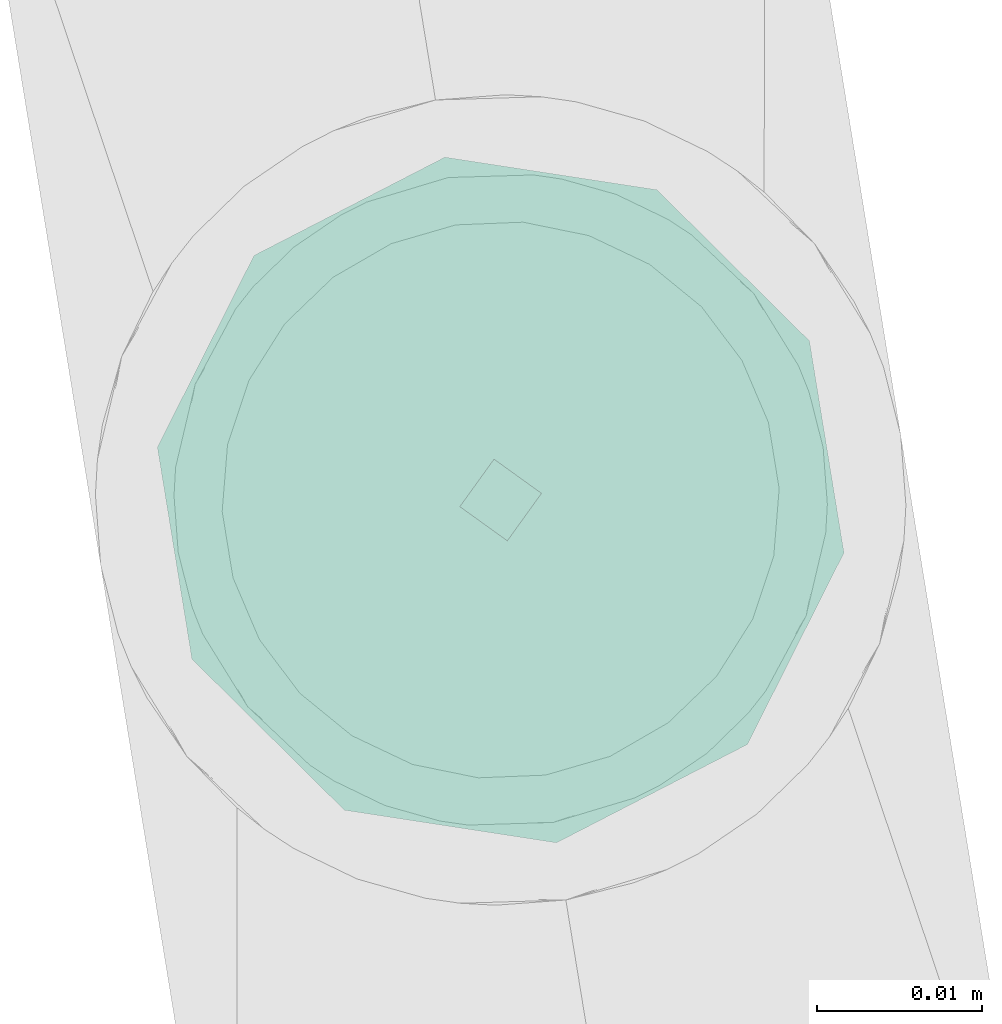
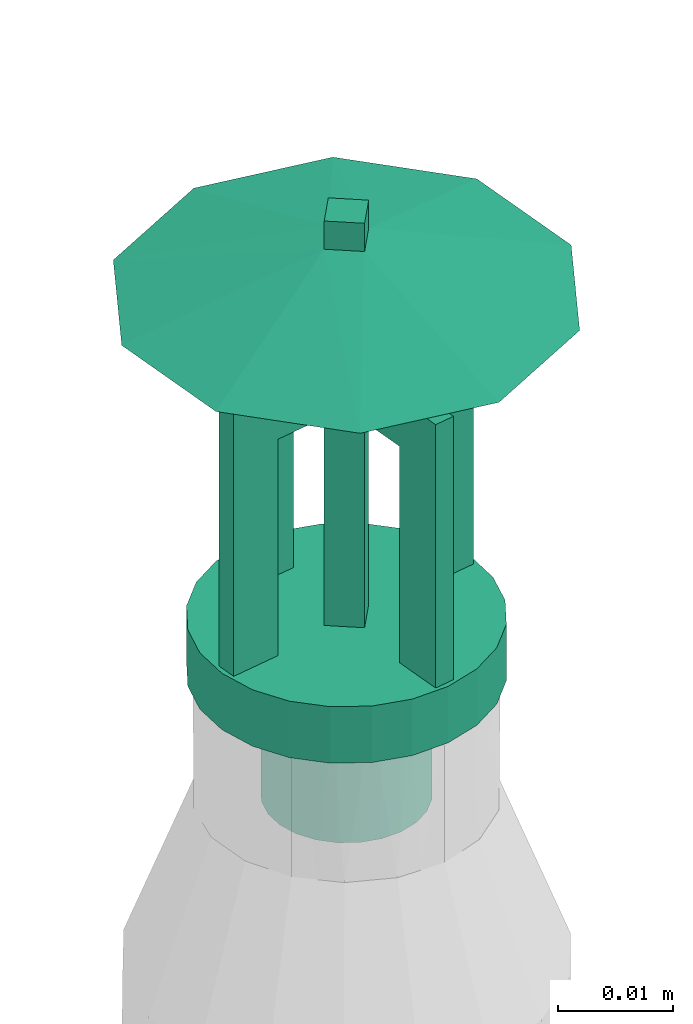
# One storey, part 45 of 56: 1 flow terminal.
"""IFC2X3 building model written with IfcOpenShell, lengths in millimetres."""

from ifc_helpers import new_model, entity, si_unit, converted_unit, derived_unit, direction, frame, origin, origin_with_axes, place, context, subcontext, project, spatial, faceted_brep, source, transform, mapped, material, type_object, element, save


model = new_model("IFC2X3")

# Units and contexts
model_context = context("Model", 3, precision=0.01, world=origin(), true_north=direction((6.12323399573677e-17, 1.0)))
plan_context = context("Plan", 3, precision=1e-05, world=origin_with_axes())
body_context = subcontext(model_context, "Body", "Model", "MODEL_VIEW")
ifc_project = project(units=[converted_unit("PLANEANGLEUNIT", "DEGREE", entity("IfcPositiveLengthMeasure", 0.0174532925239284), si_unit("PLANEANGLEUNIT", "RADIAN"), dimensions=[0, 0, 0, 0, 0, 0, 0]), si_unit("AREAUNIT", "SQUARE_METRE"), si_unit("LENGTHUNIT", "METRE", prefix="MILLI"), si_unit("MASSUNIT", "GRAM", prefix="KILO"), si_unit("POWERUNIT", "WATT"), si_unit("PRESSUREUNIT", "PASCAL", prefix="KILO"), si_unit("FORCEUNIT", "NEWTON", prefix="KILO"), si_unit("ELECTRICVOLTAGEUNIT", "VOLT"), si_unit("ELECTRICCURRENTUNIT", "AMPERE"), si_unit("THERMODYNAMICTEMPERATUREUNIT", "DEGREE_CELSIUS"), si_unit("TIMEUNIT", "SECOND"), si_unit("VOLUMEUNIT", "CUBIC_METRE"), derived_unit("LINEARVELOCITYUNIT", [(si_unit("LENGTHUNIT", "METRE"), 1), (si_unit("TIMEUNIT", "SECOND"), -1)]), derived_unit("VOLUMETRICFLOWRATEUNIT", [(si_unit("VOLUMEUNIT", "CUBIC_METRE"), 1), (si_unit("TIMEUNIT", "SECOND"), -1)]), derived_unit("THERMALTRANSMITTANCEUNIT", [(si_unit("POWERUNIT", "WATT"), 1), (si_unit("THERMODYNAMICTEMPERATUREUNIT", "KELVIN"), -1), (si_unit("AREAUNIT", "SQUARE_METRE"), -1)]), derived_unit("SOUNDPRESSUREUNIT", [(si_unit("PRESSUREUNIT", "PASCAL"), 1)])], contexts=[model_context, plan_context])

# Site, building, storey
site_placement = place(None, frame((-3.09682673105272e-06, 1.93776733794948e-05, 0.0), z_axis=(0.0, 0.0, 1.0), x_axis=(-0.160806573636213, 0.986985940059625, 0.0)))
site = spatial("IfcSite", under=ifc_project, at=site_placement, Name="Default", CompositionType="ELEMENT")
building_placement = place(site_placement, frame((0.0, 0.0, 0.0), z_axis=(0.0, 0.0, 1.0), x_axis=(1.0, -2.77555756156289e-17, 0.0)))
building = spatial("IfcBuilding", under=site, at=building_placement, Name="Bygning (endres i Project Information)", CompositionType="ELEMENT")
storey_placement = place(building_placement, frame((0.0, 0.0, 51360.0000000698), z_axis=(0.0, 0.0, 1.0), x_axis=(1.0, -2.77555756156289e-17, 0.0)))
storey = spatial("IfcBuildingStorey", under=building, at=storey_placement, Name="H01-Nivå D+0,36", CompositionType="ELEMENT", Elevation=51360.0000000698)

# Flow terminal
ifc_material = material(Name="3320.001")
fire_suppression_terminal_type = type_object("IfcFireSuppressionTerminalType", Name="SU-15-K80-68DGR-STD:SU-15-K80-68DGR-STD", PredefinedType="NOTDEFINED", material=ifc_material)
shared_shape = source(origin(), body_context, "Body", "Brep", [
    faceted_brep([(-2.5, 0.0, 62.0), (0.0, -2.5, 62.0), (2.5, 0.0, 62.0), (0.0, 2.5, 62.0), (-2.5, 0.0, 59.0), (0.0, 2.5, 59.0), (2.5, 0.0, 59.0), (0.0, -2.5, 59.0)], [[[0, 1, 2, 3]], [[4, 5, 6, 7]], [[0, 4, 7, 1]], [[7, 6, 2, 1]], [[2, 6, 5, 3]], [[5, 4, 0, 3]]]),
    faceted_brep([(1.0, -13.5, 47.0), (1.0, -13.5, 19.0), (1.0, -8.5, 19.0), (1.0, -8.5, 42.0), (1.0, 8.5, 42.0), (1.0, 8.5, 19.0), (1.0, 13.5, 19.0), (1.0, 13.5, 47.0), (-1.0, -13.5, 47.0), (-1.0, 13.5, 47.0), (-1.0, 13.5, 19.0), (-1.0, 8.5, 19.0), (-1.0, 8.5, 42.0), (-1.0, -8.5, 42.0), (-1.0, -8.5, 19.0), (-1.0, -13.5, 19.0)], [[[0, 1, 2, 3, 4, 5, 6, 7]], [[8, 9, 10, 11, 12, 13, 14, 15]], [[1, 0, 8, 15]], [[2, 1, 15, 14]], [[3, 2, 14, 13]], [[4, 3, 13, 12]], [[5, 4, 12, 11]], [[6, 5, 11, 10]], [[7, 6, 10, 9]], [[0, 7, 9, 8]]]),
    faceted_brep([(-13.5, 1.0, 47.0), (13.5, 1.0, 47.0), (13.5, 1.0, 19.0), (8.5, 1.0, 19.0), (8.5, 1.0, 42.0), (-8.5, 1.0, 42.0), (-8.5, 1.0, 19.0), (-13.5, 1.0, 19.0), (-13.5, -1.0, 47.0), (-13.5, -1.0, 19.0), (-8.5, -1.0, 19.0), (-8.5, -1.0, 42.0), (8.5, -1.0, 42.0), (8.5, -1.0, 19.0), (13.5, -1.0, 19.0), (13.5, -1.0, 47.0)], [[[0, 1, 2, 3, 4, 5, 6, 7]], [[8, 9, 10, 11, 12, 13, 14, 15]], [[1, 0, 8, 15]], [[2, 1, 15, 14]], [[3, 2, 14, 13]], [[4, 3, 13, 12]], [[5, 4, 12, 11]], [[6, 5, 11, 10]], [[7, 6, 10, 9]], [[0, 7, 9, 8]]]),
    faceted_brep([(0.0, 2.5, 59.0), (-2.5, 0.0, 59.0), (0.0, -2.5, 59.0), (2.5, 0.0, 59.0), (6.4893568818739, 19.9721868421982, 53.0), (16.9893568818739, 12.3434902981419, 53.0), (21.0, 0.0, 53.0), (16.989356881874, -12.3434902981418, 53.0), (6.48935688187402, -19.9721868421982, 53.0), (-6.48935688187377, -19.9721868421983, 53.0), (-16.9893568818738, -12.343490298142, 53.0), (-21.0, 0.0, 53.0), (-16.9893568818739, 12.3434902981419, 53.0), (-6.48935688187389, 19.9721868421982, 53.0)], [[[0, 1, 2, 3]], [[4, 5, 6, 7, 8, 9, 10, 11, 12, 13]], [[6, 3, 7]], [[2, 8, 7]], [[7, 3, 2]], [[2, 1, 10]], [[2, 10, 9]], [[10, 1, 11]], [[2, 9, 8]], [[11, 1, 12]], [[0, 13, 12]], [[12, 1, 0]], [[0, 3, 5]], [[0, 5, 4]], [[5, 3, 6]], [[0, 4, 13]]]),
    faceted_brep([(-2.5, 0.0, 53.0), (0.0, -2.5, 53.0), (2.5, 0.0, 53.0), (0.0, 2.5, 53.0), (-2.5, 0.0, 19.0), (0.0, 2.5, 19.0), (2.5, 0.0, 19.0), (0.0, -2.5, 19.0)], [[[0, 1, 2, 3]], [[4, 5, 6, 7]], [[0, 4, 7, 1]], [[7, 6, 2, 1]], [[2, 6, 5, 3]], [[5, 4, 0, 3]]]),
    faceted_brep([(3.62346663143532, -13.5229615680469, 19.0), (7.0, -12.1243556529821, 19.0), (9.89949493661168, -9.89949493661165, 19.0), (12.1243556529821, -7.0, 19.0), (13.522961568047, -3.62346663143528, 19.0), (14.0, 0.0, 19.0), (13.522961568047, 3.62346663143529, 19.0), (12.1243556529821, 7.0, 19.0), (9.89949493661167, 9.89949493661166, 19.0), (7.0, 12.1243556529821, 19.0), (3.62346663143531, 13.522961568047, 19.0), (0.0, 14.0, 19.0), (-3.62346663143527, 13.522961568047, 19.0), (-7.0, 12.1243556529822, 19.0), (-9.89949493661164, 9.89949493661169, 19.0), (-12.1243556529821, 7.0, 19.0), (-13.5229615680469, 3.62346663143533, 19.0), (-14.0, 0.0, 19.0), (-13.5229615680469, -3.62346663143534, 19.0), (-12.1243556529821, -7.0, 19.0), (-9.89949493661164, -9.89949493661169, 19.0), (-7.0, -12.1243556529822, 19.0), (-3.62346663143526, -13.522961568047, 19.0), (0.0, -14.0, 19.0), (9.89949493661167, 9.89949493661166, 13.0), (12.1243556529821, 7.0, 13.0), (13.522961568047, 3.62346663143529, 13.0), (14.0, 0.0, 13.0), (13.522961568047, -3.62346663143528, 13.0), (12.1243556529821, -7.0, 13.0), (9.89949493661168, -9.89949493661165, 13.0), (7.0, -12.1243556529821, 13.0), (3.62346663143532, -13.5229615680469, 13.0), (0.0, -14.0, 13.0), (-3.62346663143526, -13.522961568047, 13.0), (-7.0, -12.1243556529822, 13.0), (-9.89949493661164, -9.89949493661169, 13.0), (-12.1243556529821, -7.0, 13.0), (-13.5229615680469, -3.62346663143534, 13.0), (-14.0, 0.0, 13.0), (-13.5229615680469, 3.62346663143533, 13.0), (-12.1243556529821, 7.0, 13.0), (-9.89949493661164, 9.89949493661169, 13.0), (-7.0, 12.1243556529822, 13.0), (-3.62346663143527, 13.522961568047, 13.0), (0.0, 14.0, 13.0), (3.62346663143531, 13.522961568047, 13.0), (7.0, 12.1243556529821, 13.0)], [[[0, 1, 2, 3, 4, 5, 6, 7, 8, 9, 10, 11, 12, 13, 14, 15, 16, 17, 18, 19, 20, 21, 22, 23]], [[24, 25, 26, 27, 28, 29, 30, 31, 32, 33, 34, 35, 36, 37, 38, 39, 40, 41, 42, 43, 44, 45, 46, 47]], [[38, 18, 17, 39]], [[37, 19, 18, 38]], [[21, 20, 36, 35]], [[37, 36, 20, 19]], [[22, 21, 35, 34]], [[23, 22, 34, 33]], [[32, 0, 23, 33]], [[31, 1, 0, 32]], [[3, 2, 30, 29]], [[31, 30, 2, 1]], [[4, 3, 29, 28]], [[5, 4, 28, 27]], [[26, 6, 5, 27]], [[25, 7, 6, 26]], [[9, 8, 24, 47]], [[25, 24, 8, 7]], [[10, 9, 47, 46]], [[11, 10, 46, 45]], [[44, 12, 11, 45]], [[43, 13, 12, 44]], [[15, 14, 42, 41]], [[43, 42, 14, 13]], [[16, 15, 41, 40]], [[17, 16, 40, 39]]]),
    faceted_brep([(1.94114283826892, -7.24444369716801, 13.0), (3.75000000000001, -6.49519052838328, 13.0), (5.30330085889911, -5.3033008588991, 13.0), (6.49519052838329, -3.75, 13.0), (7.24444369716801, -1.9411428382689, 13.0), (7.5, 0.0, 13.0), (7.24444369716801, 1.9411428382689, 13.0), (6.49519052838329, 3.75, 13.0), (5.30330085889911, 5.3033008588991, 13.0), (3.75000000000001, 6.49519052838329, 13.0), (1.94114283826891, 7.24444369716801, 13.0), (0.0, 7.5, 13.0), (-1.94114283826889, 7.24444369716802, 13.0), (-3.74999999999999, 6.4951905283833, 13.0), (-5.3033008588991, 5.30330085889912, 13.0), (-6.49519052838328, 3.75000000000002, 13.0), (-7.24444369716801, 1.94114283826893, 13.0), (-7.5, 0.0, 13.0), (-7.244443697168, -1.94114283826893, 13.0), (-6.49519052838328, -3.75000000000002, 13.0), (-5.30330085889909, -5.30330085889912, 13.0), (-3.74999999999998, -6.4951905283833, 13.0), (-1.94114283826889, -7.24444369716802, 13.0), (0.0, -7.5, 13.0), (5.30330085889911, 5.3033008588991, 0.0), (6.49519052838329, 3.75, 0.0), (7.24444369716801, 1.9411428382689, 0.0), (7.5, 0.0, 0.0), (7.24444369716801, -1.9411428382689, 0.0), (6.49519052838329, -3.75, 0.0), (5.30330085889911, -5.3033008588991, 0.0), (3.75000000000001, -6.49519052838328, 0.0), (1.94114283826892, -7.24444369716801, 0.0), (0.0, -7.5, 0.0), (-1.94114283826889, -7.24444369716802, 0.0), (-3.74999999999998, -6.4951905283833, 0.0), (-5.30330085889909, -5.30330085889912, 0.0), (-6.49519052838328, -3.75000000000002, 0.0), (-7.244443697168, -1.94114283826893, 0.0), (-7.5, 0.0, 0.0), (-7.24444369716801, 1.94114283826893, 0.0), (-6.49519052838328, 3.75000000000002, 0.0), (-5.3033008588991, 5.30330085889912, 0.0), (-3.74999999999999, 6.4951905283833, 0.0), (-1.94114283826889, 7.24444369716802, 0.0), (0.0, 7.5, 0.0), (1.94114283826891, 7.24444369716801, 0.0), (3.75000000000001, 6.49519052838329, 0.0)], [[[0, 1, 2, 3, 4, 5, 6, 7, 8, 9, 10, 11, 12, 13, 14, 15, 16, 17, 18, 19, 20, 21, 22, 23]], [[24, 25, 26, 27, 28, 29, 30, 31, 32, 33, 34, 35, 36, 37, 38, 39, 40, 41, 42, 43, 44, 45, 46, 47]], [[38, 18, 17, 39]], [[37, 19, 18, 38]], [[21, 20, 36, 35]], [[37, 36, 20, 19]], [[22, 21, 35, 34]], [[23, 22, 34, 33]], [[32, 0, 23, 33]], [[31, 1, 0, 32]], [[3, 2, 30, 29]], [[31, 30, 2, 1]], [[4, 3, 29, 28]], [[5, 4, 28, 27]], [[26, 6, 5, 27]], [[25, 7, 6, 26]], [[9, 8, 24, 47]], [[25, 24, 8, 7]], [[10, 9, 47, 46]], [[11, 10, 46, 45]], [[44, 12, 11, 45]], [[43, 13, 12, 44]], [[15, 14, 42, 41]], [[43, 42, 14, 13]], [[16, 15, 41, 40]], [[17, 16, 40, 39]]]),
])
flow_terminal_placement = place(storey_placement, frame((1000236.26325463, -395286.663841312, 3741.99999993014), z_axis=(0.0, 0.0, 1.0), x_axis=(-1.0, 2.77555756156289e-17, 0.0)))
element("IfcFlowTerminal", 1, at=flow_terminal_placement, inside=storey, type_object=fire_suppression_terminal_type, material=ifc_material, Name="SU-15-K80-68DGR-STD:SU-15-K80-68DGR-STD", ObjectType="SU-15-K80-68DGR-STD:SU-15-K80-68DGR-STD", context=body_context, shape_type="MappedRepresentation", body=[
    mapped(shared_shape, transform((0.0, 0.0, 0.0), scale=1.0)),
])

save(model, "model.ifc")
